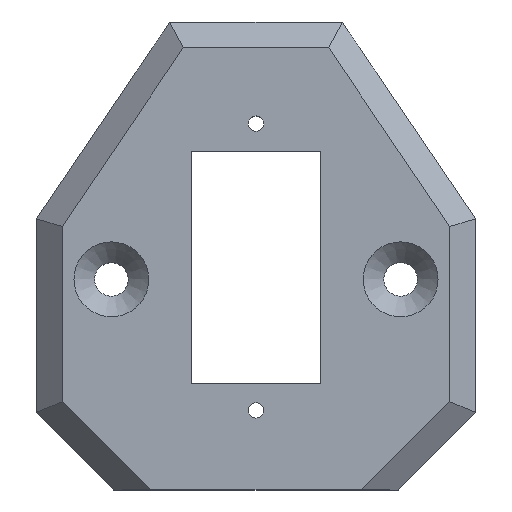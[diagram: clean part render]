
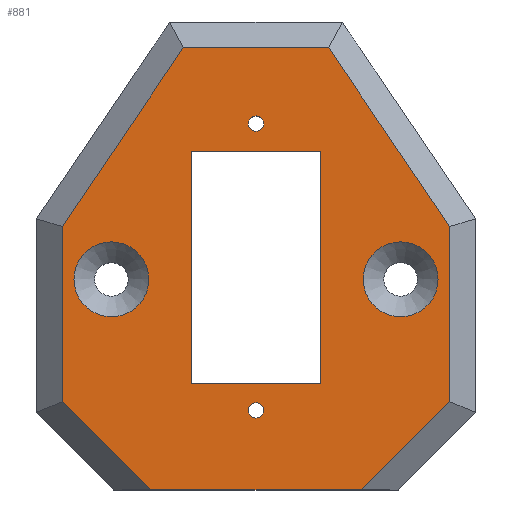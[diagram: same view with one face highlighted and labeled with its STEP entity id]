
A CAD part, top view. The second image highlights one B-rep face of the part: STEP entity #881.
In plain terms, the highlighted planar face has unit normal (0, 0, 1).
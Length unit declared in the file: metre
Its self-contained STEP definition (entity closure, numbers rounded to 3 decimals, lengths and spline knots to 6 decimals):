
#38=CIRCLE('',#951,0.000762);
#40=CIRCLE('',#954,0.003683);
#41=CIRCLE('',#955,0.003683);
#42=CIRCLE('',#956,0.000762);
#85=ORIENTED_EDGE('',*,*,#327,.T.);
#86=ORIENTED_EDGE('',*,*,#328,.T.);
#87=ORIENTED_EDGE('',*,*,#329,.F.);
#88=ORIENTED_EDGE('',*,*,#325,.F.);
#89=ORIENTED_EDGE('',*,*,#330,.T.);
#90=ORIENTED_EDGE('',*,*,#331,.T.);
#91=ORIENTED_EDGE('',*,*,#332,.T.);
#92=ORIENTED_EDGE('',*,*,#333,.T.);
#93=ORIENTED_EDGE('',*,*,#334,.T.);
#94=ORIENTED_EDGE('',*,*,#335,.T.);
#95=ORIENTED_EDGE('',*,*,#336,.T.);
#96=ORIENTED_EDGE('',*,*,#337,.T.);
#97=ORIENTED_EDGE('',*,*,#338,.F.);
#98=ORIENTED_EDGE('',*,*,#324,.T.);
#99=ORIENTED_EDGE('',*,*,#339,.T.);
#100=ORIENTED_EDGE('',*,*,#340,.F.);
#324=EDGE_CURVE('',#443,#445,#524,.T.);
#325=EDGE_CURVE('',#446,#446,#38,.T.);
#327=EDGE_CURVE('',#448,#448,#40,.F.);
#328=EDGE_CURVE('',#449,#449,#41,.F.);
#329=EDGE_CURVE('',#450,#450,#42,.T.);
#330=EDGE_CURVE('',#451,#452,#525,.T.);
#331=EDGE_CURVE('',#452,#453,#526,.T.);
#332=EDGE_CURVE('',#453,#454,#527,.T.);
#333=EDGE_CURVE('',#454,#455,#528,.T.);
#334=EDGE_CURVE('',#455,#456,#529,.T.);
#335=EDGE_CURVE('',#456,#457,#530,.T.);
#336=EDGE_CURVE('',#457,#458,#531,.T.);
#337=EDGE_CURVE('',#458,#451,#532,.T.);
#338=EDGE_CURVE('',#443,#459,#533,.T.);
#339=EDGE_CURVE('',#445,#460,#534,.T.);
#340=EDGE_CURVE('',#459,#460,#535,.T.);
#443=VERTEX_POINT('',#1329);
#445=VERTEX_POINT('',#1333);
#446=VERTEX_POINT('',#1337);
#448=VERTEX_POINT('',#1342);
#449=VERTEX_POINT('',#1344);
#450=VERTEX_POINT('',#1346);
#451=VERTEX_POINT('',#1348);
#452=VERTEX_POINT('',#1349);
#453=VERTEX_POINT('',#1351);
#454=VERTEX_POINT('',#1353);
#455=VERTEX_POINT('',#1355);
#456=VERTEX_POINT('',#1357);
#457=VERTEX_POINT('',#1359);
#458=VERTEX_POINT('',#1361);
#459=VERTEX_POINT('',#1364);
#460=VERTEX_POINT('',#1366);
#524=LINE('',#1334,#618);
#525=LINE('',#1347,#619);
#526=LINE('',#1350,#620);
#527=LINE('',#1352,#621);
#528=LINE('',#1354,#622);
#529=LINE('',#1356,#623);
#530=LINE('',#1358,#624);
#531=LINE('',#1360,#625);
#532=LINE('',#1362,#626);
#533=LINE('',#1363,#627);
#534=LINE('',#1365,#628);
#535=LINE('',#1367,#629);
#618=VECTOR('',#1059,1.);
#619=VECTOR('',#1074,1.);
#620=VECTOR('',#1075,1.);
#621=VECTOR('',#1076,1.);
#622=VECTOR('',#1077,1.);
#623=VECTOR('',#1078,1.);
#624=VECTOR('',#1079,1.);
#625=VECTOR('',#1080,1.);
#626=VECTOR('',#1081,1.);
#627=VECTOR('',#1082,1.);
#628=VECTOR('',#1083,1.);
#629=VECTOR('',#1084,1.);
#698=EDGE_LOOP('',(#85));
#699=EDGE_LOOP('',(#86));
#700=EDGE_LOOP('',(#87));
#701=EDGE_LOOP('',(#88));
#702=EDGE_LOOP('',(#89,#90,#91,#92,#93,#94,#95,#96));
#703=EDGE_LOOP('',(#97,#98,#99,#100));
#774=FACE_BOUND('',#698,.T.);
#775=FACE_BOUND('',#699,.T.);
#776=FACE_BOUND('',#700,.T.);
#777=FACE_BOUND('',#701,.T.);
#778=FACE_BOUND('',#702,.T.);
#779=FACE_BOUND('',#703,.T.);
#845=PLANE('',#953);
#881=ADVANCED_FACE('',(#774,#775,#776,#777,#778,#779),#845,.T.);
#951=AXIS2_PLACEMENT_3D('',#1336,#1062,#1063);
#953=AXIS2_PLACEMENT_3D('',#1340,#1066,#1067);
#954=AXIS2_PLACEMENT_3D('',#1341,#1068,#1069);
#955=AXIS2_PLACEMENT_3D('',#1343,#1070,#1071);
#956=AXIS2_PLACEMENT_3D('',#1345,#1072,#1073);
#1059=DIRECTION('',(1.,0.,0.));
#1062=DIRECTION('',(0.,0.,1.));
#1063=DIRECTION('',(1.,0.,0.));
#1066=DIRECTION('',(0.,0.,1.));
#1067=DIRECTION('',(1.,0.,0.));
#1068=DIRECTION('',(0.,0.,1.));
#1069=DIRECTION('',(1.,0.,0.));
#1070=DIRECTION('',(0.,0.,1.));
#1071=DIRECTION('',(1.,0.,0.));
#1072=DIRECTION('',(0.,0.,1.));
#1073=DIRECTION('',(1.,0.,0.));
#1074=DIRECTION('',(0.,-1.,0.));
#1075=DIRECTION('',(0.707,-0.707,0.));
#1076=DIRECTION('',(1.,0.,0.));
#1077=DIRECTION('',(0.707,0.707,0.));
#1078=DIRECTION('',(0.,1.,0.));
#1079=DIRECTION('',(-0.56,0.828,0.));
#1080=DIRECTION('',(-1.,0.,0.));
#1081=DIRECTION('',(-0.56,-0.828,0.));
#1082=DIRECTION('',(0.,-1.,0.));
#1083=DIRECTION('',(0.,-1.,0.));
#1084=DIRECTION('',(1.,0.,0.));
#1329=CARTESIAN_POINT('',(-0.00635,0.009195,0.010033));
#1333=CARTESIAN_POINT('',(0.00635,0.009195,0.010033));
#1334=CARTESIAN_POINT('',(0.,0.009195,0.010033));
#1336=CARTESIAN_POINT('',(0.,0.011887,0.010033));
#1337=CARTESIAN_POINT('',(0.000762,0.011887,0.010033));
#1340=CARTESIAN_POINT('',(0.,-0.001118,0.010033));
#1341=CARTESIAN_POINT('',(-0.014224,-0.003424,0.010033));
#1342=CARTESIAN_POINT('',(-0.010541,-0.003424,0.010033));
#1343=CARTESIAN_POINT('',(0.014224,-0.003424,0.010033));
#1344=CARTESIAN_POINT('',(0.017907,-0.003424,0.010033));
#1345=CARTESIAN_POINT('',(0.,-0.016307,0.010033));
#1346=CARTESIAN_POINT('',(0.000762,-0.016307,0.010033));
#1347=CARTESIAN_POINT('',(-0.01905,-0.01651,0.010033));
#1348=CARTESIAN_POINT('',(-0.01905,0.001762,0.010033));
#1349=CARTESIAN_POINT('',(-0.01905,-0.015458,0.010033));
#1350=CARTESIAN_POINT('',(-0.016695,-0.017813,0.010033));
#1351=CARTESIAN_POINT('',(-0.010378,-0.02413,0.010033));
#1352=CARTESIAN_POINT('',(0.,-0.02413,0.010033));
#1353=CARTESIAN_POINT('',(0.010378,-0.02413,0.010033));
#1354=CARTESIAN_POINT('',(0.016695,-0.017813,0.010033));
#1355=CARTESIAN_POINT('',(0.01905,-0.015458,0.010033));
#1356=CARTESIAN_POINT('',(0.01905,-0.001118,0.010033));
#1357=CARTESIAN_POINT('',(0.01905,0.001762,0.010033));
#1358=CARTESIAN_POINT('',(0.014406,0.008627,0.010033));
#1359=CARTESIAN_POINT('',(0.007149,0.019355,0.010033));
#1360=CARTESIAN_POINT('',(0.,0.019355,0.010033));
#1361=CARTESIAN_POINT('',(-0.007149,0.019355,0.010033));
#1362=CARTESIAN_POINT('',(-0.019486,0.001117,0.010033));
#1363=CARTESIAN_POINT('',(-0.00635,-0.002235,0.010033));
#1364=CARTESIAN_POINT('',(-0.00635,-0.013665,0.010033));
#1365=CARTESIAN_POINT('',(0.00635,-0.002235,0.010033));
#1366=CARTESIAN_POINT('',(0.00635,-0.013665,0.010033));
#1367=CARTESIAN_POINT('',(0.,-0.013665,0.010033));
